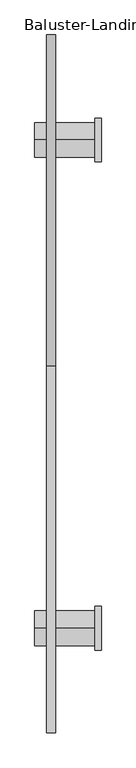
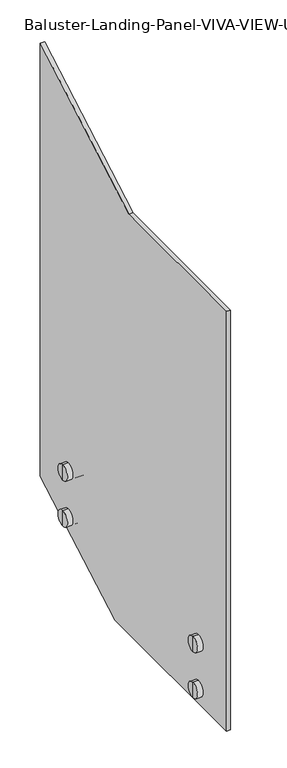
"""IFC4 building model written with IfcOpenShell, lengths in millimetres: railing geometry, Baluster-Landing-Panel-VIVA-VIEW-Upper : Standard_Glass Plate."""

from ifc_helpers import new_model, si_unit, point, frame, frame_2d, origin, place, context, project, spatial, polyline, circle_curve, trimmed, segment, composite_curve, outline, extrude, source, transform, mapped, element, save
from ifc_brep_helpers import plane_surface, cylinder_surface, advanced_brep


def baluster_landing_panel_viva_view_upper_standard_glass_plate_b6f3f88f(model_context):
    return source(origin(), model_context, "Body", "SolidModel", [
        advanced_brep(
        [(14.1452292, -152.4, -161.189208), (14.1452292, -152.4, -110.389208), (14.1452292, -152.4, -135.789208), (31.6077292, -152.4, -161.189208), (31.6077292, -152.4, -110.389208), (31.6077292, -152.4, -141.504208), (31.6077292, -152.4, -130.074208), (44.3077292, -152.4, -141.504208), (44.3077292, -152.4, -130.074208), (44.3077292, -152.4, -161.189208), (44.3077292, -152.4, -110.389208), (101.4575823, -152.4, -161.189208), (101.4575823, -152.4, -110.389208), (101.4575823, -152.4, -135.789208)],
        [
            (0, 1, circle_curve(frame((14.1452292, -152.4, -135.789208), z_axis=(-1.0, 0.0, 0.0), x_axis=(0.0, 0.0, 1.0)), 25.4)),
            (1, 2),
            (2, 0),
            (1, 0, circle_curve(frame((14.1452292, -152.4, -135.789208), z_axis=(-1.0, 0.0, 0.0), x_axis=(0.0, 0.0, 1.0)), 25.4)),
            (3, 4, circle_curve(frame((31.6077292, -152.4, -135.789208), z_axis=(-1.0, 0.0, 0.0), x_axis=(0.0, 0.0, 1.0)), 25.4)),
            (4, 1),
            (0, 3),
            (4, 3, circle_curve(frame((31.6077292, -152.4, -135.789208), z_axis=(-1.0, 0.0, 0.0), x_axis=(0.0, 0.0, 1.0)), 25.4)),
            (5, 6, circle_curve(frame((31.6077292, -152.4, -135.789208), z_axis=(-1.0, 0.0, 0.0), x_axis=(0.0, 0.0, 1.0)), 5.715)),
            (6, 4),
            (3, 5),
            (6, 5, circle_curve(frame((31.6077292, -152.4, -135.789208), z_axis=(-1.0, 0.0, 0.0), x_axis=(0.0, 0.0, 1.0)), 5.715)),
            (7, 8, circle_curve(frame((44.3077292, -152.4, -135.789208), z_axis=(-1.0, 0.0, 0.0), x_axis=(0.0, 0.0, 1.0)), 5.715)),
            (8, 6),
            (5, 7),
            (8, 7, circle_curve(frame((44.3077292, -152.4, -135.789208), z_axis=(-1.0, 0.0, 0.0), x_axis=(0.0, 0.0, 1.0)), 5.715)),
            (9, 10, circle_curve(frame((44.3077292, -152.4, -135.789208), z_axis=(-1.0, 0.0, 0.0), x_axis=(0.0, 0.0, 1.0)), 25.4)),
            (10, 8),
            (7, 9),
            (10, 9, circle_curve(frame((44.3077292, -152.4, -135.789208), z_axis=(-1.0, 0.0, 0.0), x_axis=(0.0, 0.0, 1.0)), 25.4)),
            (11, 12, circle_curve(frame((101.4575823, -152.4, -135.789208), z_axis=(-1.0, 0.0, 0.0), x_axis=(0.0, 0.0, 1.0)), 25.4)),
            (12, 10),
            (9, 11),
            (12, 11, circle_curve(frame((101.4575823, -152.4, -135.789208), z_axis=(-1.0, 0.0, 0.0), x_axis=(0.0, 0.0, 1.0)), 25.4)),
            (13, 12),
            (11, 13),
        ],
        [
            plane_surface(frame((14.1452292, -152.4, -135.789208), z_axis=(-1.0, 0.0, 0.0), x_axis=(0.0, 0.0, 1.0))),
            cylinder_surface(frame((-54.1174177, -152.4, -135.789208), z_axis=(1.0, 0.0, 0.0), x_axis=(0.0, 0.0, 1.0)), 25.4),
            plane_surface(frame((31.6077292, -152.4, -135.789208), z_axis=(1.0, 0.0, 0.0), x_axis=(0.0, 0.0, 1.0))),
            cylinder_surface(frame((-54.1174177, -152.4, -135.789208), z_axis=(1.0, 0.0, 0.0), x_axis=(0.0, 0.0, 1.0)), 5.715),
            plane_surface(frame((44.3077292, -152.4, -135.789208), z_axis=(-1.0, 0.0, 0.0), x_axis=(0.0, 0.0, 1.0))),
            plane_surface(frame((101.4575823, -152.4, -135.789208), z_axis=(1.0, 0.0, 0.0), x_axis=(0.0, 0.0, 1.0))),
        ],
        [
            (0, [[1, 2, 3]]),
            (0, [[4, -3, -2]]),
            (1, [[5, 6, -1, 7]]),
            (1, [[8, -7, -4, -6]]),
            (2, [[9, 10, -5, 11]]),
            (2, [[12, -11, -8, -10]]),
            (3, [[13, 14, -9, 15]]),
            (3, [[16, -15, -12, -14]]),
            (4, [[17, 18, -13, 19]]),
            (4, [[20, -19, -16, -18]]),
            (1, [[21, 22, -17, 23]]),
            (1, [[24, -23, -20, -22]]),
            (5, [[25, -21, 26]]),
            (5, [[-26, -24, -25]]),
        ],
    ),
        advanced_brep(
        [(31.6077292, -152.4, 10.895792), (31.6077292, -152.4, 22.325792), (31.6077292, -152.4, 42.010792), (31.6077292, -152.4, -8.789208), (44.3077292, -152.4, 10.895792), (44.3077292, -152.4, 22.325792), (44.3077292, -152.4, -8.789208), (44.3077292, -152.4, 42.010792), (101.4575823, -152.4, -8.789208), (101.4575823, -152.4, 42.010792), (101.4575823, -152.4, 16.610792), (14.1452292, -152.4, -8.789208), (14.1452292, -152.4, 42.010792), (14.1452292, -152.4, 16.610792)],
        [
            (0, 1, circle_curve(frame((31.6077292, -152.4, 16.610792), z_axis=(-1.0, 0.0, 0.0), x_axis=(0.0, 0.0, 1.0)), 5.715)),
            (1, 2),
            (2, 3, circle_curve(frame((31.6077292, -152.4, 16.610792), z_axis=(1.0, 0.0, 0.0), x_axis=(0.0, 0.0, 1.0)), 25.4)),
            (3, 0),
            (1, 0, circle_curve(frame((31.6077292, -152.4, 16.610792), z_axis=(-1.0, 0.0, 0.0), x_axis=(0.0, 0.0, 1.0)), 5.715)),
            (3, 2, circle_curve(frame((31.6077292, -152.4, 16.610792), z_axis=(1.0, 0.0, 0.0), x_axis=(0.0, 0.0, 1.0)), 25.4)),
            (4, 5, circle_curve(frame((44.3077292, -152.4, 16.610792), z_axis=(-1.0, 0.0, 0.0), x_axis=(0.0, 0.0, 1.0)), 5.715)),
            (5, 1),
            (0, 4),
            (5, 4, circle_curve(frame((44.3077292, -152.4, 16.610792), z_axis=(-1.0, 0.0, 0.0), x_axis=(0.0, 0.0, 1.0)), 5.715)),
            (6, 7, circle_curve(frame((44.3077292, -152.4, 16.610792), z_axis=(-1.0, 0.0, 0.0), x_axis=(0.0, 0.0, 1.0)), 25.4)),
            (7, 5),
            (4, 6),
            (7, 6, circle_curve(frame((44.3077292, -152.4, 16.610792), z_axis=(-1.0, 0.0, 0.0), x_axis=(0.0, 0.0, 1.0)), 25.4)),
            (8, 9, circle_curve(frame((101.4575823, -152.4, 16.610792), z_axis=(-1.0, 0.0, 0.0), x_axis=(0.0, 0.0, 1.0)), 25.4)),
            (9, 7),
            (6, 8),
            (9, 8, circle_curve(frame((101.4575823, -152.4, 16.610792), z_axis=(-1.0, 0.0, 0.0), x_axis=(0.0, 0.0, 1.0)), 25.4)),
            (10, 9),
            (8, 10),
            (11, 12, circle_curve(frame((14.1452292, -152.4, 16.610792), z_axis=(-1.0, 0.0, 0.0), x_axis=(0.0, 0.0, 1.0)), 25.4)),
            (12, 13),
            (13, 11),
            (12, 11, circle_curve(frame((14.1452292, -152.4, 16.610792), z_axis=(-1.0, 0.0, 0.0), x_axis=(0.0, 0.0, 1.0)), 25.4)),
            (2, 12),
            (11, 3),
        ],
        [
            plane_surface(frame((31.6077292, -152.4, 16.610792), z_axis=(1.0, 0.0, 0.0), x_axis=(0.0, 0.0, 1.0))),
            cylinder_surface(frame((-54.1174177, -152.4, 16.610792), z_axis=(1.0, 0.0, 0.0), x_axis=(0.0, 0.0, 1.0)), 5.715),
            plane_surface(frame((44.3077292, -152.4, 16.610792), z_axis=(-1.0, 0.0, 0.0), x_axis=(0.0, 0.0, 1.0))),
            cylinder_surface(frame((-54.1174177, -152.4, 16.610792), z_axis=(1.0, 0.0, 0.0), x_axis=(0.0, 0.0, 1.0)), 25.4),
            plane_surface(frame((101.4575823, -152.4, 16.610792), z_axis=(1.0, 0.0, 0.0), x_axis=(0.0, 0.0, 1.0))),
            plane_surface(frame((14.1452292, -152.4, 16.610792), z_axis=(-1.0, 0.0, 0.0), x_axis=(0.0, 0.0, 1.0))),
        ],
        [
            (0, [[1, 2, 3, 4]]),
            (0, [[5, -4, 6, -2]]),
            (1, [[7, 8, -1, 9]]),
            (1, [[10, -9, -5, -8]]),
            (2, [[11, 12, -7, 13]]),
            (2, [[14, -13, -10, -12]]),
            (3, [[15, 16, -11, 17]]),
            (3, [[18, -17, -14, -16]]),
            (4, [[19, -15, 20]]),
            (4, [[-20, -18, -19]]),
            (5, [[21, 22, 23]]),
            (5, [[24, -23, -22]]),
            (3, [[-3, 25, -21, 26]]),
            (3, [[-6, -26, -24, -25]]),
        ],
    ),
        extrude(outline(composite_curve([segment(polyline([(-120.65, 16.610792), (-120.65, -135.789208)]), True, "CONTINUOUS"), segment(trimmed(circle_curve(frame_2d((-152.4, -135.789208)), 31.75), [point((-120.65, -135.789208))], [point((-184.15, -135.789208))], False, "CARTESIAN"), True, "CONTINUOUS"), segment(polyline([(-184.15, -135.789208), (-184.15, 16.610792)]), True, "CONTINUOUS"), segment(trimmed(circle_curve(frame_2d((-152.4, 16.610792)), 31.75), [point((-184.15, 16.610792))], [point((-120.65, 16.610792))], False, "CARTESIAN"), True, "CONTINUOUS")], self_intersect=False)), frame((101.4575823, 0.0, 0.0), z_axis=(1.0, 0.0, 0.0), x_axis=(0.0, 1.0, 0.0)), (0.0, 0.0, 1.0), 9.525),
        advanced_brep(
        [(14.1452292, -861.6322056, -300.889208), (14.1452292, -861.6322056, -250.089208), (14.1452292, -861.6322056, -275.489208), (31.6077292, -861.6322056, -300.889208), (31.6077292, -861.6322056, -250.089208), (31.6077292, -861.6322056, -281.204208), (31.6077292, -861.6322056, -269.774208), (44.3077292, -861.6322056, -281.204208), (44.3077292, -861.6322056, -269.774208), (44.3077292, -861.6322056, -300.889208), (44.3077292, -861.6322056, -250.089208), (101.4575823, -861.6322056, -300.889208), (101.4575823, -861.6322056, -250.089208), (101.4575823, -861.6322056, -275.489208)],
        [
            (0, 1, circle_curve(frame((14.1452292, -861.6322056, -275.489208), z_axis=(-1.0, 0.0, 0.0), x_axis=(0.0, 0.0, 1.0)), 25.4)),
            (1, 2),
            (2, 0),
            (1, 0, circle_curve(frame((14.1452292, -861.6322056, -275.489208), z_axis=(-1.0, 0.0, 0.0), x_axis=(0.0, 0.0, 1.0)), 25.4)),
            (3, 4, circle_curve(frame((31.6077292, -861.6322056, -275.489208), z_axis=(-1.0, 0.0, 0.0), x_axis=(0.0, 0.0, 1.0)), 25.4)),
            (4, 1),
            (0, 3),
            (4, 3, circle_curve(frame((31.6077292, -861.6322056, -275.489208), z_axis=(-1.0, 0.0, 0.0), x_axis=(0.0, 0.0, 1.0)), 25.4)),
            (5, 6, circle_curve(frame((31.6077292, -861.6322056, -275.489208), z_axis=(-1.0, 0.0, 0.0), x_axis=(0.0, 0.0, 1.0)), 5.715)),
            (6, 4),
            (3, 5),
            (6, 5, circle_curve(frame((31.6077292, -861.6322056, -275.489208), z_axis=(-1.0, 0.0, 0.0), x_axis=(0.0, 0.0, 1.0)), 5.715)),
            (7, 8, circle_curve(frame((44.3077292, -861.6322056, -275.489208), z_axis=(-1.0, 0.0, 0.0), x_axis=(0.0, 0.0, 1.0)), 5.715)),
            (8, 6),
            (5, 7),
            (8, 7, circle_curve(frame((44.3077292, -861.6322056, -275.489208), z_axis=(-1.0, 0.0, 0.0), x_axis=(0.0, 0.0, 1.0)), 5.715)),
            (9, 10, circle_curve(frame((44.3077292, -861.6322056, -275.489208), z_axis=(-1.0, 0.0, 0.0), x_axis=(0.0, 0.0, 1.0)), 25.4)),
            (10, 8),
            (7, 9),
            (10, 9, circle_curve(frame((44.3077292, -861.6322056, -275.489208), z_axis=(-1.0, 0.0, 0.0), x_axis=(0.0, 0.0, 1.0)), 25.4)),
            (11, 12, circle_curve(frame((101.4575823, -861.6322056, -275.489208), z_axis=(-1.0, 0.0, 0.0), x_axis=(0.0, 0.0, 1.0)), 25.4)),
            (12, 10),
            (9, 11),
            (12, 11, circle_curve(frame((101.4575823, -861.6322056, -275.489208), z_axis=(-1.0, 0.0, 0.0), x_axis=(0.0, 0.0, 1.0)), 25.4)),
            (13, 12),
            (11, 13),
        ],
        [
            plane_surface(frame((14.1452292, -861.6322056, -275.489208), z_axis=(-1.0, 0.0, 0.0), x_axis=(0.0, 0.0, 1.0))),
            cylinder_surface(frame((-54.1174177, -861.6322056, -275.489208), z_axis=(1.0, 0.0, 0.0), x_axis=(0.0, 0.0, 1.0)), 25.4),
            plane_surface(frame((31.6077292, -861.6322056, -275.489208), z_axis=(1.0, 0.0, 0.0), x_axis=(0.0, 0.0, 1.0))),
            cylinder_surface(frame((-54.1174177, -861.6322056, -275.489208), z_axis=(1.0, 0.0, 0.0), x_axis=(0.0, 0.0, 1.0)), 5.715),
            plane_surface(frame((44.3077292, -861.6322056, -275.489208), z_axis=(-1.0, 0.0, 0.0), x_axis=(0.0, 0.0, 1.0))),
            plane_surface(frame((101.4575823, -861.6322056, -275.489208), z_axis=(1.0, 0.0, 0.0), x_axis=(0.0, 0.0, 1.0))),
        ],
        [
            (0, [[1, 2, 3]]),
            (0, [[4, -3, -2]]),
            (1, [[5, 6, -1, 7]]),
            (1, [[8, -7, -4, -6]]),
            (2, [[9, 10, -5, 11]]),
            (2, [[12, -11, -8, -10]]),
            (3, [[13, 14, -9, 15]]),
            (3, [[16, -15, -12, -14]]),
            (4, [[17, 18, -13, 19]]),
            (4, [[20, -19, -16, -18]]),
            (1, [[21, 22, -17, 23]]),
            (1, [[24, -23, -20, -22]]),
            (5, [[25, -21, 26]]),
            (5, [[-26, -24, -25]]),
        ],
    ),
        advanced_brep(
        [(31.6077292, -861.6322056, -128.804208), (31.6077292, -861.6322056, -117.374208), (31.6077292, -861.6322056, -97.689208), (31.6077292, -861.6322056, -148.489208), (44.3077292, -861.6322056, -128.804208), (44.3077292, -861.6322056, -117.374208), (44.3077292, -861.6322056, -148.489208), (44.3077292, -861.6322056, -97.689208), (101.4575823, -861.6322056, -148.489208), (101.4575823, -861.6322056, -97.689208), (101.4575823, -861.6322056, -123.089208), (14.1452292, -861.6322056, -148.489208), (14.1452292, -861.6322056, -97.689208), (14.1452292, -861.6322056, -123.089208)],
        [
            (0, 1, circle_curve(frame((31.6077292, -861.6322056, -123.089208), z_axis=(-1.0, 0.0, 0.0), x_axis=(0.0, 0.0, 1.0)), 5.715)),
            (1, 2),
            (2, 3, circle_curve(frame((31.6077292, -861.6322056, -123.089208), z_axis=(1.0, 0.0, 0.0), x_axis=(0.0, 0.0, 1.0)), 25.4)),
            (3, 0),
            (1, 0, circle_curve(frame((31.6077292, -861.6322056, -123.089208), z_axis=(-1.0, 0.0, 0.0), x_axis=(0.0, 0.0, 1.0)), 5.715)),
            (3, 2, circle_curve(frame((31.6077292, -861.6322056, -123.089208), z_axis=(1.0, 0.0, 0.0), x_axis=(0.0, 0.0, 1.0)), 25.4)),
            (4, 5, circle_curve(frame((44.3077292, -861.6322056, -123.089208), z_axis=(-1.0, 0.0, 0.0), x_axis=(0.0, 0.0, 1.0)), 5.715)),
            (5, 1),
            (0, 4),
            (5, 4, circle_curve(frame((44.3077292, -861.6322056, -123.089208), z_axis=(-1.0, 0.0, 0.0), x_axis=(0.0, 0.0, 1.0)), 5.715)),
            (6, 7, circle_curve(frame((44.3077292, -861.6322056, -123.089208), z_axis=(-1.0, 0.0, 0.0), x_axis=(0.0, 0.0, 1.0)), 25.4)),
            (7, 5),
            (4, 6),
            (7, 6, circle_curve(frame((44.3077292, -861.6322056, -123.089208), z_axis=(-1.0, 0.0, 0.0), x_axis=(0.0, 0.0, 1.0)), 25.4)),
            (8, 9, circle_curve(frame((101.4575823, -861.6322056, -123.089208), z_axis=(-1.0, 0.0, 0.0), x_axis=(0.0, 0.0, 1.0)), 25.4)),
            (9, 7),
            (6, 8),
            (9, 8, circle_curve(frame((101.4575823, -861.6322056, -123.089208), z_axis=(-1.0, 0.0, 0.0), x_axis=(0.0, 0.0, 1.0)), 25.4)),
            (10, 9),
            (8, 10),
            (11, 12, circle_curve(frame((14.1452292, -861.6322056, -123.089208), z_axis=(-1.0, 0.0, 0.0), x_axis=(0.0, 0.0, 1.0)), 25.4)),
            (12, 13),
            (13, 11),
            (12, 11, circle_curve(frame((14.1452292, -861.6322056, -123.089208), z_axis=(-1.0, 0.0, 0.0), x_axis=(0.0, 0.0, 1.0)), 25.4)),
            (2, 12),
            (11, 3),
        ],
        [
            plane_surface(frame((31.6077292, -861.6322056, -123.089208), z_axis=(1.0, 0.0, 0.0), x_axis=(0.0, 0.0, 1.0))),
            cylinder_surface(frame((-54.1174177, -861.6322056, -123.089208), z_axis=(1.0, 0.0, 0.0), x_axis=(0.0, 0.0, 1.0)), 5.715),
            plane_surface(frame((44.3077292, -861.6322056, -123.089208), z_axis=(-1.0, 0.0, 0.0), x_axis=(0.0, 0.0, 1.0))),
            cylinder_surface(frame((-54.1174177, -861.6322056, -123.089208), z_axis=(1.0, 0.0, 0.0), x_axis=(0.0, 0.0, 1.0)), 25.4),
            plane_surface(frame((101.4575823, -861.6322056, -123.089208), z_axis=(1.0, 0.0, 0.0), x_axis=(0.0, 0.0, 1.0))),
            plane_surface(frame((14.1452292, -861.6322056, -123.089208), z_axis=(-1.0, 0.0, 0.0), x_axis=(0.0, 0.0, 1.0))),
        ],
        [
            (0, [[1, 2, 3, 4]]),
            (0, [[5, -4, 6, -2]]),
            (1, [[7, 8, -1, 9]]),
            (1, [[10, -9, -5, -8]]),
            (2, [[11, 12, -7, 13]]),
            (2, [[14, -13, -10, -12]]),
            (3, [[15, 16, -11, 17]]),
            (3, [[18, -17, -14, -16]]),
            (4, [[19, -15, 20]]),
            (4, [[-20, -18, -19]]),
            (5, [[21, 22, 23]]),
            (5, [[24, -23, -22]]),
            (3, [[-3, 25, -21, 26]]),
            (3, [[-6, -26, -24, -25]]),
        ],
    ),
        extrude(outline(composite_curve([segment(polyline([(-829.8822056, -123.089208), (-829.8822056, -275.489208)]), True, "CONTINUOUS"), segment(trimmed(circle_curve(frame_2d((-861.6322056, -275.489208)), 31.75), [point((-829.8822056, -275.489208))], [point((-893.3822056, -275.489208))], False, "CARTESIAN"), True, "CONTINUOUS"), segment(polyline([(-893.3822056, -275.489208), (-893.3822056, -123.089208)]), True, "CONTINUOUS"), segment(trimmed(circle_curve(frame_2d((-861.6322056, -123.089208)), 31.75), [point((-893.3822056, -123.089208))], [point((-829.8822056, -123.089208))], False, "CARTESIAN"), True, "CONTINUOUS")], self_intersect=False)), frame((101.4575823, 0.0, 0.0), z_axis=(1.0, 0.0, 0.0), x_axis=(0.0, 1.0, 0.0)), (0.0, 0.0, 1.0), 9.525),
        extrude(outline(polyline([(-481.6709032, 1067.6292413), (0.0, 1342.8153248), (0.0, -94.5477587), (-405.6277548, -326.289208), (-1014.0322056, -326.289208), (-1014.0322056, 1067.6292413), (-481.6709032, 1067.6292413)])), frame((31.6077292, 0.0, 0.0), z_axis=(1.0, 0.0, 0.0), x_axis=(0.0, 1.0, 0.0)), (0.0, 0.0, 1.0), 12.7),
    ])


if __name__ == "__main__":
    model = new_model("IFC4")
    model_context = context("Model", 3, world=origin())
    ifc_project = project(units=[si_unit("LENGTHUNIT", "METRE", prefix="MILLI")], contexts=[model_context])
    site = spatial("IfcSite", under=ifc_project)
    building = spatial("IfcBuilding", under=site)
    placement = place(None, origin())
    baluster_landing_panel_viva_view_upper_standard_glass_plate_shape = baluster_landing_panel_viva_view_upper_standard_glass_plate_b6f3f88f(model_context)
    element("IfcRailing", 1, ObjectType="Baluster-Landing-Panel-VIVA-VIEW-Upper : Standard_Glass Plate", at=placement, inside=building, context=model_context, shape_type="MappedRepresentation", body=[
        mapped(baluster_landing_panel_viva_view_upper_standard_glass_plate_shape, transform((0.0, 0.0, 0.0), x_axis=(1.0, 0.0, 0.0), y_axis=(0.0, 1.0, 0.0), z_axis=(0.0, 0.0, 1.0))),
    ])
    save(model, "model.ifc")
